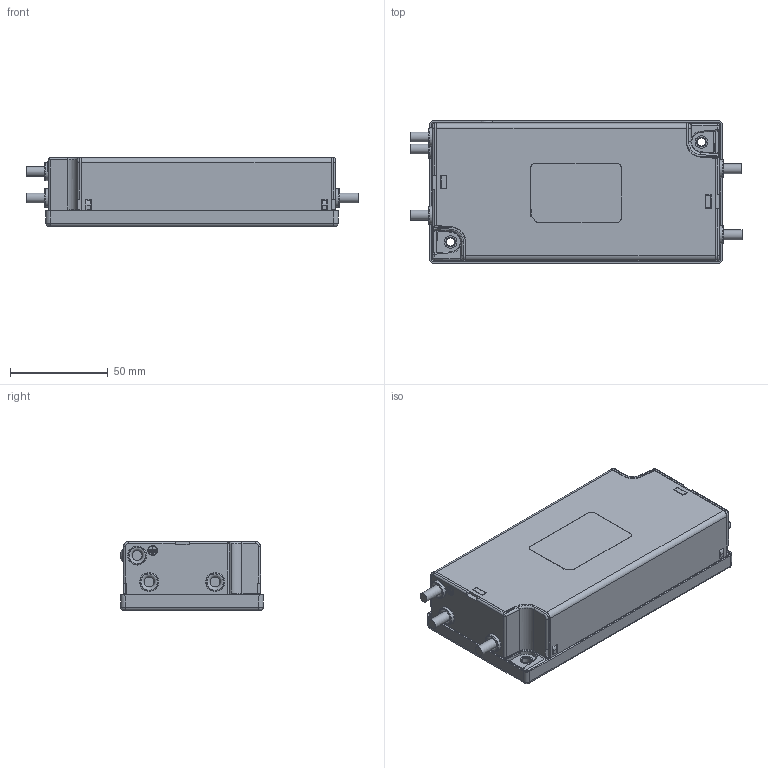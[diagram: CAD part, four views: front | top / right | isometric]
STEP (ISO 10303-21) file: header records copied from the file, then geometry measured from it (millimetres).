
FILE_DESCRIPTION(/* description */ (''),/* implementation_level */ '2;1');
FILE_NAME(/* name */ 'C:\Users\Christian.Ackermann\OneDrive - Schaffner EMV AG\Desktop\UMA_customerSTEP\FN252x-xx-07.stp',/* time_stamp */ '2021-11-30T10:10:20+01:00',/* author */ ('Christian.Ackermann'),/* organization */ (''),/* preprocessor_version */ 'ST-DEVELOPER v18.1',/* originating_system */ 'Autodesk Inventor 2020',/* authorisation */ '');
FILE_SCHEMA (('AUTOMOTIVE_DESIGN { 1 0 10303 214 3 1 1 }'));
Length unit declared in the file: millimetre
Products named in the file (1): FN252x-xx-07
Bounding box: 169.4 x 73 x 35.07 mm (x, y, z)
Volume: 348088.7 mm3; surface area: 54534.9 mm2
Topology: 5 solids, 5 shells, 1164 faces, 2944 edges, 1814 vertices
Faces by surface type: plane 518, cylinder 378, bspline 150, torus 46, sphere 42, cone 30
Full cylindrical faces by diameter (mm): 2 x1, 4.2 x2, 5 x5, 6.4 x2, 6.5 x1, 8.39 x4, 8.74 x6
Entity records: 40591 total; most frequent: CARTESIAN_POINT 11350, ORIENTED_EDGE 5880, DIRECTION 5831, EDGE_CURVE 2940, AXIS2_PLACEMENT_3D 2073, VERTEX_POINT 1814, LINE 1685, VECTOR 1685
